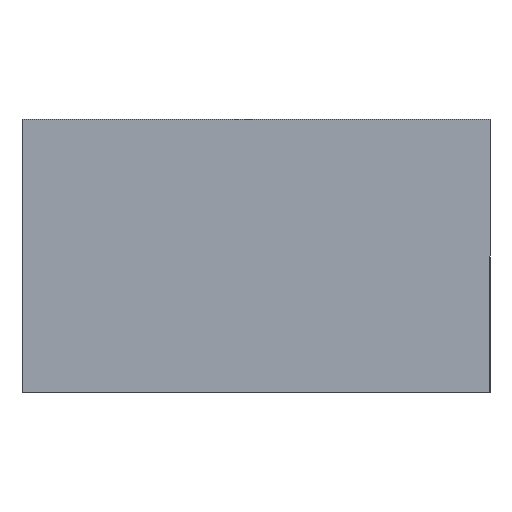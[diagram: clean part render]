
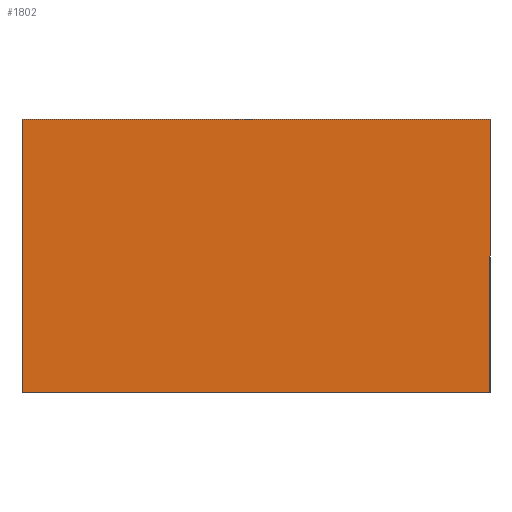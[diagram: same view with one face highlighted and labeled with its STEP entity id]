
A CAD part, front view. The second image highlights one B-rep face of the part: STEP entity #1802.
In plain terms, the highlighted planar face has unit normal (0, -1, 0).
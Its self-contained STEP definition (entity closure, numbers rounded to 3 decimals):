
#43 = CARTESIAN_POINT ( 'NONE',  ( -30., 0., -17.5 ) ) ;
#275 = VERTEX_POINT ( 'NONE', #796 ) ;
#304 = ORIENTED_EDGE ( 'NONE', *, *, #1436, .F. ) ;
#309 = DIRECTION ( 'NONE',  ( 0., 0., 1. ) ) ;
#317 = EDGE_LOOP ( 'NONE', ( #2071, #1035, #304, #1662 ) ) ;
#357 = FACE_OUTER_BOUND ( 'NONE', #317, .T. ) ;
#387 = VECTOR ( 'NONE', #309, 1000. ) ;
#597 = VECTOR ( 'NONE', #1925, 1000. ) ;
#699 = VECTOR ( 'NONE', #2392, 1000. ) ;
#796 = CARTESIAN_POINT ( 'NONE',  ( 30., 0., -17.5 ) ) ;
#945 = VERTEX_POINT ( 'NONE', #2283 ) ;
#1035 = ORIENTED_EDGE ( 'NONE', *, *, #1118, .F. ) ;
#1098 = VECTOR ( 'NONE', #2308, 1000. ) ;
#1118 = EDGE_CURVE ( 'NONE', #945, #1119, #2218, .T. ) ;
#1119 = VERTEX_POINT ( 'NONE', #1935 ) ;
#1198 = LINE ( 'NONE', #2251, #699 ) ;
#1289 = EDGE_CURVE ( 'NONE', #1119, #275, #1198, .T. ) ;
#1361 = EDGE_CURVE ( 'NONE', #275, #1793, #2182, .T. ) ;
#1436 = EDGE_CURVE ( 'NONE', #1793, #945, #1801, .T. ) ;
#1561 = PLANE ( 'NONE',  #2336 ) ;
#1662 = ORIENTED_EDGE ( 'NONE', *, *, #1361, .F. ) ;
#1666 = CARTESIAN_POINT ( 'NONE',  ( 0., 0., 0. ) ) ;
#1673 = CARTESIAN_POINT ( 'NONE',  ( -30., 0., -17.5 ) ) ;
#1793 = VERTEX_POINT ( 'NONE', #1673 ) ;
#1801 = LINE ( 'NONE', #43, #387 ) ;
#1802 = ADVANCED_FACE ( 'NONE', ( #357 ), #1561, .F. ) ;
#1912 = DIRECTION ( 'NONE',  ( 0., 0., 1. ) ) ;
#1925 = DIRECTION ( 'NONE',  ( 1., 0., 0. ) ) ;
#1931 = CARTESIAN_POINT ( 'NONE',  ( -30., 0., 17.5 ) ) ;
#1935 = CARTESIAN_POINT ( 'NONE',  ( 30., 0., 17.5 ) ) ;
#1962 = DIRECTION ( 'NONE',  ( 0., 1., 0. ) ) ;
#2071 = ORIENTED_EDGE ( 'NONE', *, *, #1289, .F. ) ;
#2182 = LINE ( 'NONE', #2330, #1098 ) ;
#2218 = LINE ( 'NONE', #1931, #597 ) ;
#2251 = CARTESIAN_POINT ( 'NONE',  ( 30., 0., -17.5 ) ) ;
#2283 = CARTESIAN_POINT ( 'NONE',  ( -30., 0., 17.5 ) ) ;
#2308 = DIRECTION ( 'NONE',  ( -1., 0., 0. ) ) ;
#2330 = CARTESIAN_POINT ( 'NONE',  ( -30., 0., -17.5 ) ) ;
#2336 = AXIS2_PLACEMENT_3D ( 'NONE', #1666, #1962, #1912 ) ;
#2392 = DIRECTION ( 'NONE',  ( 0., 0., -1. ) ) ;
